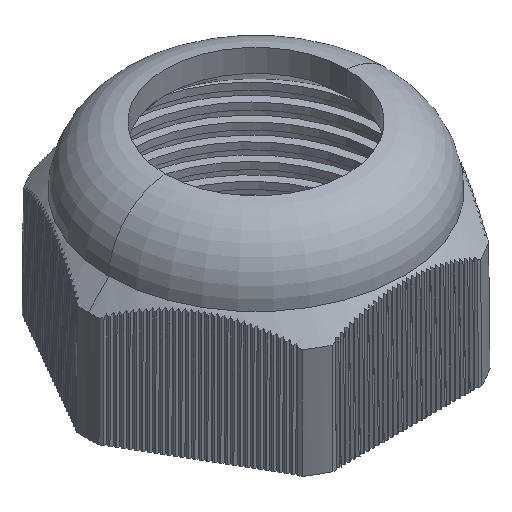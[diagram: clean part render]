
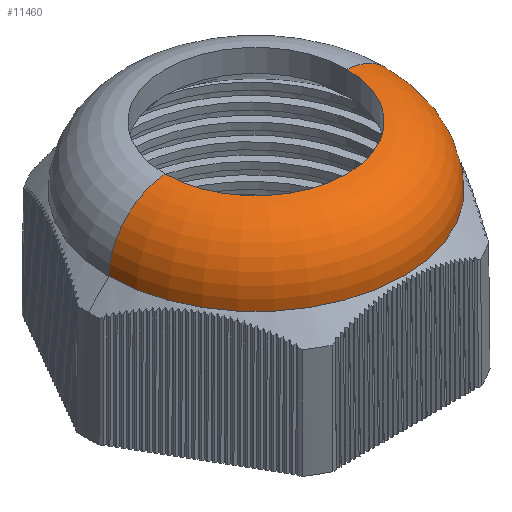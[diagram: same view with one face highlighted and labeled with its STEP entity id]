
A CAD part, isometric view. The second image highlights one B-rep face of the part: STEP entity #11460.
In plain terms, the highlighted toroidal (fillet/blend) face has major radius 8.7 mm and minor radius 6.09 mm.
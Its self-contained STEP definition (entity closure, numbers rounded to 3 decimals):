
#343 = EDGE_CURVE ( 'NONE', #6226, #11717, #4159, .T. ) ;
#345 = ORIENTED_EDGE ( 'NONE', *, *, #13773, .F. ) ;
#678 = ORIENTED_EDGE ( 'NONE', *, *, #8080, .T. ) ;
#1905 = AXIS2_PLACEMENT_3D ( 'NONE', #20568, #12934, #10579 ) ;
#2169 = CARTESIAN_POINT ( 'NONE',  ( 14.792, 0.005, 14.451 ) ) ;
#4159 = CIRCLE ( 'NONE', #12132, 14.79 ) ;
#4317 = CARTESIAN_POINT ( 'NONE',  ( 8.702, 0.005, 14.466 ) ) ;
#5518 = CARTESIAN_POINT ( 'NONE',  ( 0.002, 0.005, 14.451 ) ) ;
#6226 = VERTEX_POINT ( 'NONE', #2169 ) ;
#7622 = CARTESIAN_POINT ( 'NONE',  ( 0.002, 0.005, 20.541 ) ) ;
#7988 = AXIS2_PLACEMENT_3D ( 'NONE', #7622, #15658, #19345 ) ;
#8080 = EDGE_CURVE ( 'NONE', #11089, #11717, #17470, .T. ) ;
#8199 = CIRCLE ( 'NONE', #22910, 6.09 ) ;
#8429 = CARTESIAN_POINT ( 'NONE',  ( 9.137, 0.005, 20.541 ) ) ;
#8822 = CIRCLE ( 'NONE', #7988, 9.135 ) ;
#9269 = ORIENTED_EDGE ( 'NONE', *, *, #343, .F. ) ;
#10035 = CARTESIAN_POINT ( 'NONE',  ( -9.133, 0.005, 20.541 ) ) ;
#10115 = DIRECTION ( 'NONE',  ( -1., 0., 0. ) ) ;
#10280 = AXIS2_PLACEMENT_3D ( 'NONE', #19747, #17388, #25275 ) ;
#10579 = DIRECTION ( 'NONE',  ( 1., 0., 0. ) ) ;
#11089 = VERTEX_POINT ( 'NONE', #10035 ) ;
#11460 = ADVANCED_FACE ( 'NONE', ( #21581 ), #16574, .T. ) ;
#11717 = VERTEX_POINT ( 'NONE', #23264 ) ;
#12132 = AXIS2_PLACEMENT_3D ( 'NONE', #5518, #21692, #13934 ) ;
#12338 = DIRECTION ( 'NONE',  ( 0., 1., 0. ) ) ;
#12934 = DIRECTION ( 'NONE',  ( 0., -1., 0. ) ) ;
#13773 = EDGE_CURVE ( 'NONE', #23094, #6226, #8199, .T. ) ;
#13934 = DIRECTION ( 'NONE',  ( -1., 0., 0. ) ) ;
#15658 = DIRECTION ( 'NONE',  ( 0., 0., 1. ) ) ;
#16574 = TOROIDAL_SURFACE ( 'NONE', #10280, 8.7, 6.09 ) ;
#17388 = DIRECTION ( 'NONE',  ( 0., 0., -1. ) ) ;
#17470 = CIRCLE ( 'NONE', #1905, 6.09 ) ;
#19345 = DIRECTION ( 'NONE',  ( 1., 0., 0. ) ) ;
#19747 = CARTESIAN_POINT ( 'NONE',  ( 0.002, 0.005, 14.466 ) ) ;
#20393 = EDGE_CURVE ( 'NONE', #11089, #23094, #8822, .T. ) ;
#20568 = CARTESIAN_POINT ( 'NONE',  ( -8.698, 0.005, 14.466 ) ) ;
#21581 = FACE_OUTER_BOUND ( 'NONE', #22604, .T. ) ;
#21692 = DIRECTION ( 'NONE',  ( 0., 0., -1. ) ) ;
#22138 = ORIENTED_EDGE ( 'NONE', *, *, #20393, .F. ) ;
#22604 = EDGE_LOOP ( 'NONE', ( #345, #22138, #678, #9269 ) ) ;
#22910 = AXIS2_PLACEMENT_3D ( 'NONE', #4317, #12338, #10115 ) ;
#23094 = VERTEX_POINT ( 'NONE', #8429 ) ;
#23264 = CARTESIAN_POINT ( 'NONE',  ( -14.788, 0.005, 14.451 ) ) ;
#25275 = DIRECTION ( 'NONE',  ( -1., 0., 0. ) ) ;
